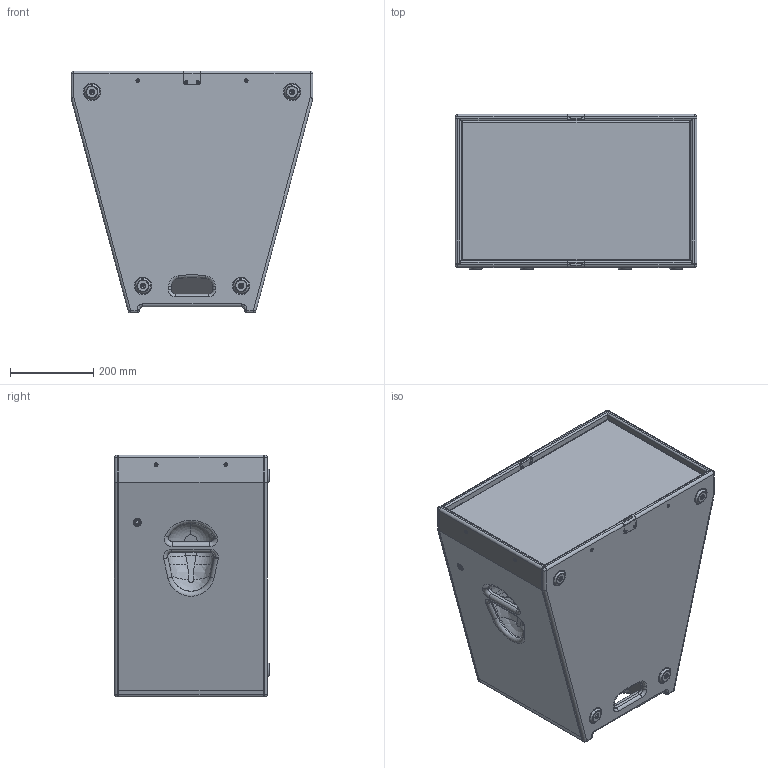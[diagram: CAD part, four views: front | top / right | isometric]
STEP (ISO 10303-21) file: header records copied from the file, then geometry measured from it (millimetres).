
FILE_DESCRIPTION (( 'STEP AP214' ), '1' );
FILE_NAME ('PS1EX.STEP', '2026-06-25T11:16:12', ( '' ), ( '' ), 'SwSTEP 2.0', 'SolidWorks 2023', '' );
FILE_SCHEMA (( 'AUTOMOTIVE_DESIGN' ));
Length unit declared in the file: millimetre
Products named in the file (22): PS1 Frontgitter teil blank_; ASF Top 2015 passiv; PS1X Seite lang R; PS1X Deckel; PS1X Rückwand; ASF Top 2015 passiv komplett; M10-Flansch_doppelt_multirigg; Griffdeckel Aero Tropfen; PS1X Boden; socket countersunk head screw_iso_ISO 10642 - M3 x 8 --- 8N; Seeburg EPDM Foot 38x10; PS1X Griffverkleidung; Befestigungsöse; PS1EX; socket countersunk head screw_iso_ISO 10642 - M4 x 8 --- 8N; socket countersunk head screw_iso_ISO 10642 - M4 x 25 --- 25N; PS1X Rückwandleiste; PS1X Seite lang L; M10-Flansch_kompakt_symmetrisch; PS1X Seite kurz L; socket countersunk head screw_iso_ISO 10642 - M4 x 20 --- 20N; SpeakOn NL4MP
Assembly tree (55 placements, depth 3):
  PS1EX
    PS1X Boden
    PS1X Deckel
    PS1X Seite kurz L  x2
    PS1X Seite lang L
    PS1X Seite lang R
    PS1X Rückwand
    PS1X Griffverkleidung
    PS1X Rückwandleiste  x2
    Griffdeckel Aero Tropfen  x2
    ASF Top 2015 passiv komplett
      ASF Top 2015 passiv
      SpeakOn NL4MP  x2
      socket countersunk head screw_iso_ISO 10642 - M4 x 8 --- 8N  x6
      socket countersunk head screw_iso_ISO 10642 - M3 x 8 --- 8N  x4
    M10-Flansch_kompakt_symmetrisch  x3
    M10-Flansch_doppelt_multirigg
    Befestigungsöse  x2
    Seeburg EPDM Foot 38x10  x4
    socket countersunk head screw_iso_ISO 10642 - M4 x 8 --- 8N  x6
    socket countersunk head screw_iso_ISO 10642 - M3 x 8 --- 8N  x4
    socket countersunk head screw_iso_ISO 10642 - M4 x 25 --- 25N  x2
    socket countersunk head screw_iso_ISO 10642 - M4 x 20 --- 20N  x6
    PS1 Frontgitter teil blank_
Bounding box: 580 x 372 x 580 mm (x, y, z)
Volume: 15507188.3 mm3; surface area: 2871570.8 mm2
Topology: 54 solids, 54 shells, 2009 faces, 4792 edges, 2879 vertices
Faces by surface type: plane 911, cylinder 586, cone 322, torus 132, bspline 38, sphere 20
Entity records: 31815 total; most frequent: CARTESIAN_POINT 6713, DIRECTION 5380, ORIENTED_EDGE 4872, EDGE_CURVE 2436, AXIS2_PLACEMENT_3D 1985, VERTEX_POINT 1518, LINE 1410, VECTOR 1410
